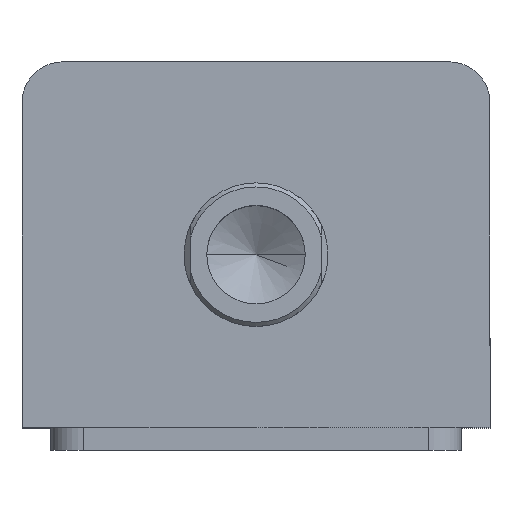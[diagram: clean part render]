
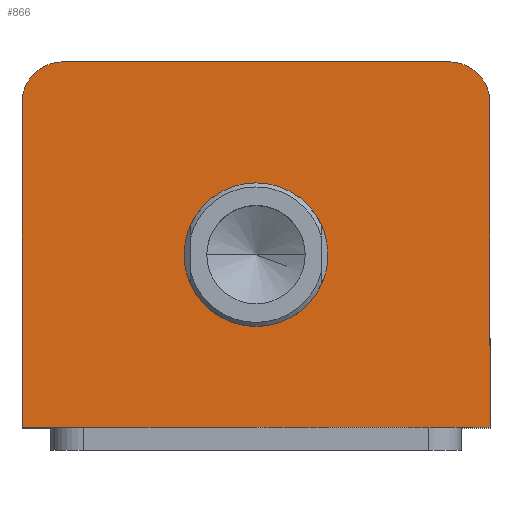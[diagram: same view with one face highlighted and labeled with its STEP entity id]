
A CAD part, top view. The second image highlights one B-rep face of the part: STEP entity #866.
In plain terms, the highlighted planar face has unit normal (0, 0, 1).
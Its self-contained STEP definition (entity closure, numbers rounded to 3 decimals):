
#109 = CARTESIAN_POINT ( 'NONE',  ( -57., 34.5, 127. ) ) ;
#220 = CARTESIAN_POINT ( 'NONE',  ( -17.5, -2.5, 127. ) ) ;
#221 = CARTESIAN_POINT ( 'NONE',  ( -57., -44.5, 127. ) ) ;
#222 = CARTESIAN_POINT ( 'NONE',  ( 17.5, -2.5, 127. ) ) ;
#224 = CARTESIAN_POINT ( 'NONE',  ( 57., -44.5, 127. ) ) ;
#240 = CARTESIAN_POINT ( 'NONE',  ( 57., 34.5, 127. ) ) ;
#252 = CARTESIAN_POINT ( 'NONE',  ( 47., 44.5, 127. ) ) ;
#255 = CARTESIAN_POINT ( 'NONE',  ( -47., 44.5, 127. ) ) ;
#866 = ADVANCED_FACE ( 'NONE', ( #1068, #1071 ), #2420, .T. ) ;
#1068 = FACE_BOUND ( 'NONE', #2481, .T. ) ;
#1071 = FACE_OUTER_BOUND ( 'NONE', #1105, .T. ) ;
#1105 = EDGE_LOOP ( 'NONE', ( #1778, #1779, #1780, #1781, #1782, #1783 ) ) ;
#1776 = ORIENTED_EDGE ( 'NONE', *, *, #3485, .F. ) ;
#1777 = ORIENTED_EDGE ( 'NONE', *, *, #3483, .F. ) ;
#1778 = ORIENTED_EDGE ( 'NONE', *, *, #3522, .T. ) ;
#1779 = ORIENTED_EDGE ( 'NONE', *, *, #3544, .T. ) ;
#1780 = ORIENTED_EDGE ( 'NONE', *, *, #3548, .T. ) ;
#1781 = ORIENTED_EDGE ( 'NONE', *, *, #3492, .T. ) ;
#1782 = ORIENTED_EDGE ( 'NONE', *, *, #3507, .T. ) ;
#1783 = ORIENTED_EDGE ( 'NONE', *, *, #3535, .T. ) ;
#1816 = CIRCLE ( 'NONE', #3035, 10. ) ;
#1820 = LINE ( 'NONE', #1984, #1823 ) ;
#1823 = VECTOR ( 'NONE', #1985, 1000. ) ;
#1915 = CARTESIAN_POINT ( 'NONE',  ( -57., 44.5, 127. ) ) ;
#1916 = DIRECTION ( 'NONE',  ( -1., 0., 0. ) ) ;
#1948 = CARTESIAN_POINT ( 'NONE',  ( 47., 34.5, 127. ) ) ;
#1949 = DIRECTION ( 'NONE',  ( 0., 0., 1. ) ) ;
#1950 = DIRECTION ( 'NONE',  ( 1., 0., 0. ) ) ;
#1975 = CARTESIAN_POINT ( 'NONE',  ( -47., 34.5, 127. ) ) ;
#1976 = DIRECTION ( 'NONE',  ( 0., 0., 1. ) ) ;
#1977 = DIRECTION ( 'NONE',  ( 1., 0., 0. ) ) ;
#1984 = CARTESIAN_POINT ( 'NONE',  ( -57., 44.5, 127. ) ) ;
#1985 = DIRECTION ( 'NONE',  ( 0., -1., 0. ) ) ;
#2045 = CARTESIAN_POINT ( 'NONE',  ( 0., -2.5, 127. ) ) ;
#2046 = DIRECTION ( 'NONE',  ( 0., 0., 1. ) ) ;
#2047 = DIRECTION ( 'NONE',  ( 1., 0., 0. ) ) ;
#2048 = CARTESIAN_POINT ( 'NONE',  ( 0., -2.5, 127. ) ) ;
#2049 = DIRECTION ( 'NONE',  ( 0., 0., 1. ) ) ;
#2050 = DIRECTION ( 'NONE',  ( 1., 0., 0. ) ) ;
#2059 = CARTESIAN_POINT ( 'NONE',  ( -57., -44.5, 127. ) ) ;
#2069 = DIRECTION ( 'NONE',  ( 1., 0., 0. ) ) ;
#2097 = CARTESIAN_POINT ( 'NONE',  ( 57., 44.5, 127. ) ) ;
#2098 = DIRECTION ( 'NONE',  ( 0., 1., 0. ) ) ;
#2243 = CIRCLE ( 'NONE', #3212, 17.5 ) ;
#2246 = CIRCLE ( 'NONE', #3156, 17.5 ) ;
#2252 = LINE ( 'NONE', #2059, #2259 ) ;
#2259 = VECTOR ( 'NONE', #2069, 1000. ) ;
#2286 = LINE ( 'NONE', #2097, #2289 ) ;
#2289 = VECTOR ( 'NONE', #2098, 1000. ) ;
#2313 = LINE ( 'NONE', #1915, #2316 ) ;
#2316 = VECTOR ( 'NONE', #1916, 1000. ) ;
#2329 = CIRCLE ( 'NONE', #3202, 10. ) ;
#2416 = CARTESIAN_POINT ( 'NONE',  ( 0., 0., 127. ) ) ;
#2420 = PLANE ( 'NONE',  #3317 ) ;
#2425 = DIRECTION ( 'NONE',  ( 0., 0., 1. ) ) ;
#2426 = DIRECTION ( 'NONE',  ( 1., 0., 0. ) ) ;
#2481 = EDGE_LOOP ( 'NONE', ( #1776, #1777 ) ) ;
#2801 = VERTEX_POINT ( 'NONE', #220 ) ;
#2802 = VERTEX_POINT ( 'NONE', #221 ) ;
#2803 = VERTEX_POINT ( 'NONE', #222 ) ;
#2805 = VERTEX_POINT ( 'NONE', #224 ) ;
#2821 = VERTEX_POINT ( 'NONE', #240 ) ;
#2833 = VERTEX_POINT ( 'NONE', #252 ) ;
#2836 = VERTEX_POINT ( 'NONE', #255 ) ;
#2844 = VERTEX_POINT ( 'NONE', #109 ) ;
#3035 = AXIS2_PLACEMENT_3D ( 'NONE', #1975, #1976, #1977 ) ;
#3156 = AXIS2_PLACEMENT_3D ( 'NONE', #2048, #2049, #2050 ) ;
#3202 = AXIS2_PLACEMENT_3D ( 'NONE', #1948, #1949, #1950 ) ;
#3212 = AXIS2_PLACEMENT_3D ( 'NONE', #2045, #2046, #2047 ) ;
#3317 = AXIS2_PLACEMENT_3D ( 'NONE', #2416, #2425, #2426 ) ;
#3483 = EDGE_CURVE ( 'NONE', #2801, #2803, #2243, .T. ) ;
#3485 = EDGE_CURVE ( 'NONE', #2803, #2801, #2246, .T. ) ;
#3492 = EDGE_CURVE ( 'NONE', #2802, #2805, #2252, .T. ) ;
#3507 = EDGE_CURVE ( 'NONE', #2805, #2821, #2286, .T. ) ;
#3522 = EDGE_CURVE ( 'NONE', #2833, #2836, #2313, .T. ) ;
#3535 = EDGE_CURVE ( 'NONE', #2821, #2833, #2329, .T. ) ;
#3544 = EDGE_CURVE ( 'NONE', #2836, #2844, #1816, .T. ) ;
#3548 = EDGE_CURVE ( 'NONE', #2844, #2802, #1820, .T. ) ;
